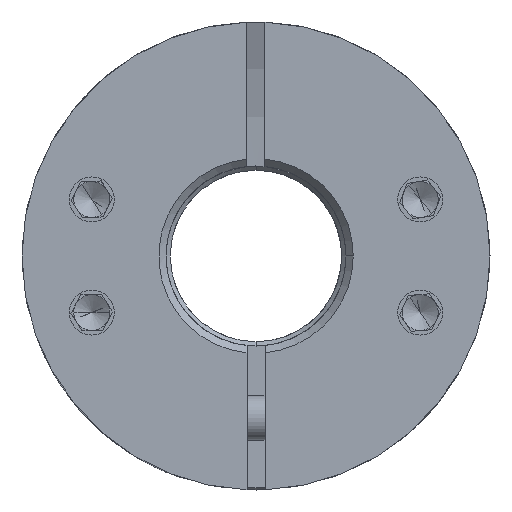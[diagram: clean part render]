
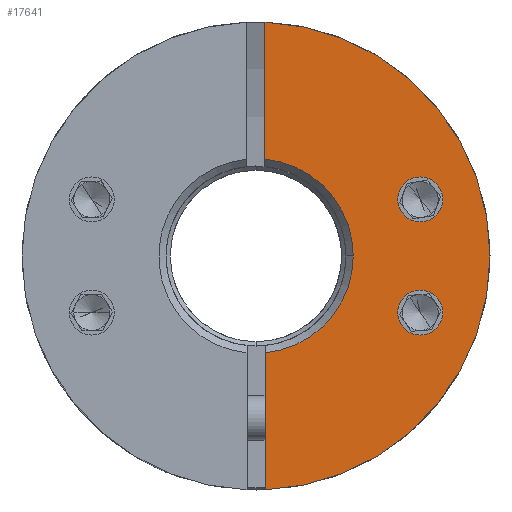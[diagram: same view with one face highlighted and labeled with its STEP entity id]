
A CAD part, front view. The second image highlights one B-rep face of the part: STEP entity #17641.
In plain terms, the highlighted planar face has unit normal (0, -1, 0).
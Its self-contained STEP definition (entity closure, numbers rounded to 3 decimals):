
#179 = FACE_BOUND ( 'NONE', #7930, .T. ) ;
#827 = EDGE_CURVE ( 'NONE', #5631, #11226, #1390, .T. ) ;
#904 = DIRECTION ( 'NONE',  ( 0., -1., 0. ) ) ;
#1028 = DIRECTION ( 'NONE',  ( 1., 0., 0. ) ) ;
#1390 = CIRCLE ( 'NONE', #5970, 1.25 ) ;
#1592 = DIRECTION ( 'NONE',  ( 0., -1., 0. ) ) ;
#2384 = VERTEX_POINT ( 'NONE', #4482 ) ;
#2540 = VECTOR ( 'NONE', #6802, 1000. ) ;
#2554 = ORIENTED_EDGE ( 'NONE', *, *, #6836, .T. ) ;
#2564 = DIRECTION ( 'NONE',  ( 0., 1., 0. ) ) ;
#2789 = DIRECTION ( 'NONE',  ( 1., 0., 0. ) ) ;
#3226 = DIRECTION ( 'NONE',  ( 1., 0., 0. ) ) ;
#3268 = ORIENTED_EDGE ( 'NONE', *, *, #5576, .T. ) ;
#3489 = CARTESIAN_POINT ( 'NONE',  ( 10.88, -26.289, -3.142 ) ) ;
#4482 = CARTESIAN_POINT ( 'NONE',  ( 12.13, -26.289, 3.142 ) ) ;
#4490 = DIRECTION ( 'NONE',  ( 1., 0., 0. ) ) ;
#4519 = CARTESIAN_POINT ( 'NONE',  ( 7.155, -26.289, 0. ) ) ;
#4811 = EDGE_CURVE ( 'NONE', #12955, #15363, #12368, .T. ) ;
#5073 = CARTESIAN_POINT ( 'NONE',  ( 1.755, -26.289, 0. ) ) ;
#5408 = DIRECTION ( 'NONE',  ( 1., 0., 0. ) ) ;
#5520 = CARTESIAN_POINT ( 'NONE',  ( 2.255, -26.289, -12.99 ) ) ;
#5576 = EDGE_CURVE ( 'NONE', #22799, #9777, #20211, .T. ) ;
#5631 = VERTEX_POINT ( 'NONE', #18590 ) ;
#5933 = ORIENTED_EDGE ( 'NONE', *, *, #4811, .T. ) ;
#5970 = AXIS2_PLACEMENT_3D ( 'NONE', #15153, #11797, #13418 ) ;
#6010 = CARTESIAN_POINT ( 'NONE',  ( 9.63, -26.289, 3.142 ) ) ;
#6023 = ORIENTED_EDGE ( 'NONE', *, *, #11140, .T. ) ;
#6119 = EDGE_CURVE ( 'NONE', #2384, #11429, #22666, .T. ) ;
#6360 = EDGE_CURVE ( 'NONE', #11226, #5631, #13160, .T. ) ;
#6434 = ORIENTED_EDGE ( 'NONE', *, *, #827, .T. ) ;
#6562 = CIRCLE ( 'NONE', #22585, 5.4 ) ;
#6626 = ORIENTED_EDGE ( 'NONE', *, *, #17263, .T. ) ;
#6802 = DIRECTION ( 'NONE',  ( 0., 0., -1. ) ) ;
#6829 = VERTEX_POINT ( 'NONE', #19219 ) ;
#6836 = EDGE_CURVE ( 'NONE', #22642, #22799, #21257, .T. ) ;
#6940 = AXIS2_PLACEMENT_3D ( 'NONE', #13449, #2564, #2789 ) ;
#7418 = CARTESIAN_POINT ( 'NONE',  ( 2.255, -26.289, 5.377 ) ) ;
#7620 = ORIENTED_EDGE ( 'NONE', *, *, #12027, .T. ) ;
#7930 = EDGE_LOOP ( 'NONE', ( #19691, #6434 ) ) ;
#8024 = CARTESIAN_POINT ( 'NONE',  ( 1.755, -26.289, 0. ) ) ;
#8518 = CIRCLE ( 'NONE', #17973, 1.25 ) ;
#8915 = DIRECTION ( 'NONE',  ( 0., 1., 0. ) ) ;
#9777 = VERTEX_POINT ( 'NONE', #16782 ) ;
#10460 = EDGE_CURVE ( 'NONE', #15363, #22642, #6562, .T. ) ;
#10496 = DIRECTION ( 'NONE',  ( 0., 1., 0. ) ) ;
#11140 = EDGE_CURVE ( 'NONE', #9777, #6829, #12376, .T. ) ;
#11226 = VERTEX_POINT ( 'NONE', #17493 ) ;
#11429 = VERTEX_POINT ( 'NONE', #6010 ) ;
#11797 = DIRECTION ( 'NONE',  ( 0., 1., 0. ) ) ;
#12027 = EDGE_CURVE ( 'NONE', #6829, #12955, #13434, .T. ) ;
#12172 = DIRECTION ( 'NONE',  ( 0., -1., 0. ) ) ;
#12368 = CIRCLE ( 'NONE', #16217, 5.4 ) ;
#12376 = CIRCLE ( 'NONE', #17510, 13. ) ;
#12671 = FACE_OUTER_BOUND ( 'NONE', #17222, .T. ) ;
#12955 = VERTEX_POINT ( 'NONE', #7418 ) ;
#13160 = CIRCLE ( 'NONE', #19993, 1.25 ) ;
#13418 = DIRECTION ( 'NONE',  ( 1., 0., 0. ) ) ;
#13434 = LINE ( 'NONE', #20438, #21833 ) ;
#13449 = CARTESIAN_POINT ( 'NONE',  ( 10.88, -26.289, 3.142 ) ) ;
#13721 = PLANE ( 'NONE',  #14355 ) ;
#14097 = CARTESIAN_POINT ( 'NONE',  ( 2.255, -26.289, -5.377 ) ) ;
#14355 = AXIS2_PLACEMENT_3D ( 'NONE', #19140, #12172, #3226 ) ;
#14797 = ORIENTED_EDGE ( 'NONE', *, *, #6119, .T. ) ;
#14870 = EDGE_LOOP ( 'NONE', ( #6626, #14797 ) ) ;
#15153 = CARTESIAN_POINT ( 'NONE',  ( 10.88, -26.289, -3.142 ) ) ;
#15245 = DIRECTION ( 'NONE',  ( 0., 0., -1. ) ) ;
#15284 = DIRECTION ( 'NONE',  ( 1., 0., 0. ) ) ;
#15363 = VERTEX_POINT ( 'NONE', #4519 ) ;
#16217 = AXIS2_PLACEMENT_3D ( 'NONE', #16895, #22354, #1028 ) ;
#16782 = CARTESIAN_POINT ( 'NONE',  ( 14.755, -26.289, 0. ) ) ;
#16895 = CARTESIAN_POINT ( 'NONE',  ( 1.755, -26.289, 0. ) ) ;
#17222 = EDGE_LOOP ( 'NONE', ( #7620, #5933, #21136, #2554, #3268, #6023 ) ) ;
#17263 = EDGE_CURVE ( 'NONE', #11429, #2384, #8518, .T. ) ;
#17493 = CARTESIAN_POINT ( 'NONE',  ( 9.63, -26.289, -3.142 ) ) ;
#17496 = CARTESIAN_POINT ( 'NONE',  ( 2.255, -26.289, 5. ) ) ;
#17510 = AXIS2_PLACEMENT_3D ( 'NONE', #5073, #1592, #21017 ) ;
#17641 = ADVANCED_FACE ( 'NONE', ( #12671, #19118, #179 ), #13721, .T. ) ;
#17973 = AXIS2_PLACEMENT_3D ( 'NONE', #22958, #8915, #5408 ) ;
#18590 = CARTESIAN_POINT ( 'NONE',  ( 12.13, -26.289, -3.142 ) ) ;
#18917 = AXIS2_PLACEMENT_3D ( 'NONE', #20318, #904, #15284 ) ;
#19118 = FACE_BOUND ( 'NONE', #14870, .T. ) ;
#19140 = CARTESIAN_POINT ( 'NONE',  ( 1.755, -26.289, 0. ) ) ;
#19219 = CARTESIAN_POINT ( 'NONE',  ( 2.255, -26.289, 12.99 ) ) ;
#19566 = DIRECTION ( 'NONE',  ( 1., 0., 0. ) ) ;
#19691 = ORIENTED_EDGE ( 'NONE', *, *, #6360, .T. ) ;
#19993 = AXIS2_PLACEMENT_3D ( 'NONE', #3489, #10496, #19566 ) ;
#20211 = CIRCLE ( 'NONE', #18917, 13. ) ;
#20318 = CARTESIAN_POINT ( 'NONE',  ( 1.755, -26.289, 0. ) ) ;
#20438 = CARTESIAN_POINT ( 'NONE',  ( 2.255, -26.289, 5. ) ) ;
#20529 = DIRECTION ( 'NONE',  ( 0., 1., 0. ) ) ;
#21017 = DIRECTION ( 'NONE',  ( 1., 0., 0. ) ) ;
#21136 = ORIENTED_EDGE ( 'NONE', *, *, #10460, .T. ) ;
#21257 = LINE ( 'NONE', #17496, #2540 ) ;
#21833 = VECTOR ( 'NONE', #15245, 1000. ) ;
#22354 = DIRECTION ( 'NONE',  ( 0., 1., 0. ) ) ;
#22585 = AXIS2_PLACEMENT_3D ( 'NONE', #8024, #20529, #4490 ) ;
#22642 = VERTEX_POINT ( 'NONE', #14097 ) ;
#22666 = CIRCLE ( 'NONE', #6940, 1.25 ) ;
#22799 = VERTEX_POINT ( 'NONE', #5520 ) ;
#22958 = CARTESIAN_POINT ( 'NONE',  ( 10.88, -26.289, 3.142 ) ) ;
